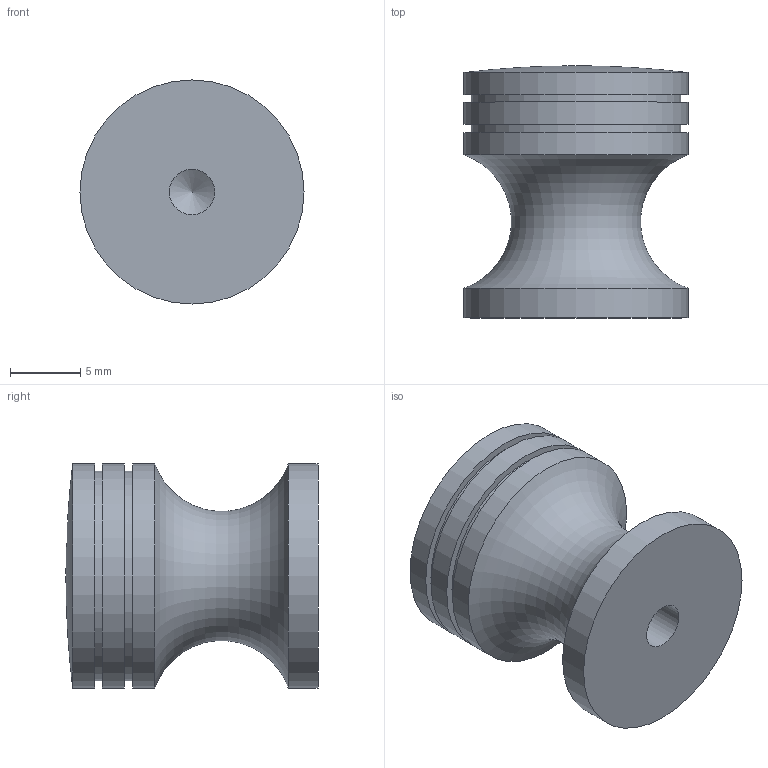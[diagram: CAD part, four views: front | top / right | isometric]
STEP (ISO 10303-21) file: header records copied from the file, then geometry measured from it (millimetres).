
FILE_DESCRIPTION(/* description */ (''),/* implementation_level */ '2;1');
FILE_NAME(/* name */ '\\NAS\db20\A-C2-16\DR_A-C2-16.stp',/* time_stamp */ '2017-07-07T10:16:04+09:00',/* author */ ('user'),/* organization */ (''),/* preprocessor_version */ 'ST-DEVELOPER v15.6',/* originating_system */ 'Autodesk Inventor 2015',/* authorisation */ '');
FILE_SCHEMA (('AUTOMOTIVE_DESIGN { 1 0 10303 214 3 1 1 }'));
Length unit declared in the file: millimetre
Products named in the file (1): DR_A-C2-16
Bounding box: 16 x 18 x 16 mm (x, y, z)
Volume: 2498.4 mm3; surface area: 1442 mm2
Topology: 1 solids, 1 shells, 15 faces, 27 edges, 17 vertices
Faces by surface type: cylinder 7, plane 5, cone 1, torus 1, bspline 1
Full cylindrical faces by diameter (mm): 3.242 x1, 14.941 x2, 16 x4
Entity records: 358 total; most frequent: CARTESIAN_POINT 76, DIRECTION 60, ORIENTED_EDGE 32, AXIS2_PLACEMENT_3D 30, EDGE_LOOP 28, VERTEX_POINT 16, EDGE_CURVE 16, FACE_OUTER_BOUND 15
